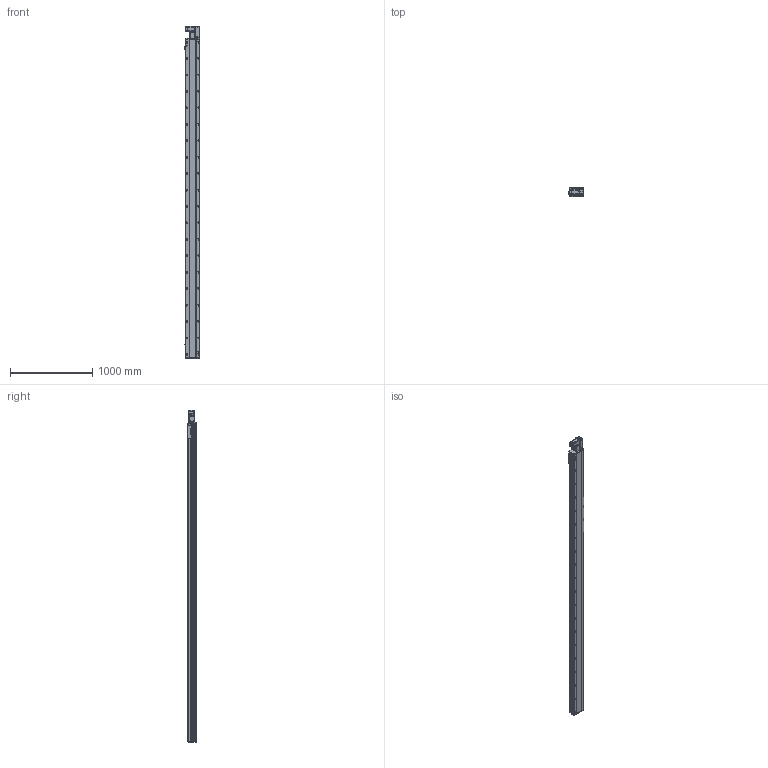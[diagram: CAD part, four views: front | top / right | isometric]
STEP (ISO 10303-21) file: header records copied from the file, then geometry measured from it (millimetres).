
FILE_DESCRIPTION (( 'STEP AP214' ), '1' );
FILE_NAME ('RTB17S-XX-3600-R-M40-C4.STEP', '2025-12-11T08:02:23', ( '' ), ( '' ), 'SwSTEP 2.0', 'SolidWorks 2018', '' );
FILE_SCHEMA (( 'AUTOMOTIVE_DESIGN' ));
Length unit declared in the file: millimetre
Products named in the file (14): RTB17S-L-001耜醱啣^RTB17S-XX-XX-R-M40-C4; RTH13-BL-012覜茼え俋离^RTB17S-XX-XX-R-M40-C4; RTB14-L-008-M20--萇儂啣^RTB17S-R-々湍釱蚾饜-400W_RTB17S-XX-XX-R-M40-C4; RTB17S-L-014-T20--々湍釱^RTB17S-R-々湍釱蚾饜-400W_RTB17S-XX-XX-R-M40-C4; RTB17-R-011菁釱^RTB17S-XX-XX-R-M40-C4; RTB14-L-018P^RTB17S-R-々湍釱蚾饜-400W_RTB17S-XX-XX-R-M40-C4; RTB17S-L-004佪裝蹟譫蟀諉釱^RTB17S-XX-XX-R-M40-C4; RTB14-L-005P--轴承塑胶压盖^RTB17S-R-皮带座装配-400W_RTB17S-XX-XX-R-M40-C4; RTB17S-L-007奻裔^RTB17S-XX-XX-R-M40-C4; RTB17S-R-々湍釱蚾饜-400W^RTB17S-XX-XX-R-M40-C4; RTB17S-XX-3600-R-M40-C4; RTB14-L-017P^RTB17S-R-々湍釱蚾饜-400W_RTB17S-XX-XX-R-M40-C4; 400W侜督萇儂^RTB17S-XX-XX-R-M40-C4; OMRON EE-SX672 传感器^RTB17S-XX-XX-R-M40-C4
Assembly tree (16 placements, depth 3):
  RTB17S-XX-3600-R-M40-C4
    RTB17-R-011菁釱^RTB17S-XX-XX-R-M40-C4
    RTB17S-L-007奻裔^RTB17S-XX-XX-R-M40-C4
    OMRON EE-SX672 传感器^RTB17S-XX-XX-R-M40-C4  x3
    RTB17S-L-001耜醱啣^RTB17S-XX-XX-R-M40-C4
    400W侜督萇儂^RTB17S-XX-XX-R-M40-C4
    RTB17S-L-004佪裝蹟譫蟀諉釱^RTB17S-XX-XX-R-M40-C4
    RTH13-BL-012覜茼え俋离^RTB17S-XX-XX-R-M40-C4
    RTB17S-R-々湍釱蚾饜-400W^RTB17S-XX-XX-R-M40-C4
      RTB17S-L-014-T20--々湍釱^RTB17S-R-々湍釱蚾饜-400W_RTB17S-XX-XX-R-M40-C4
      RTB14-L-005P--轴承塑胶压盖^RTB17S-R-皮带座装配-400W_RTB17S-XX-XX-R-M40-C4
      RTB14-L-008-M20--萇儂啣^RTB17S-R-々湍釱蚾饜-400W_RTB17S-XX-XX-R-M40-C4
      RTB14-L-017P^RTB17S-R-々湍釱蚾饜-400W_RTB17S-XX-XX-R-M40-C4  x2
      RTB14-L-018P^RTB17S-R-々湍釱蚾饜-400W_RTB17S-XX-XX-R-M40-C4
Bounding box: 183.5 x 108 x 4041 mm (x, y, z)
Volume: 33579738.6 mm3; surface area: 3809323.1 mm2
Topology: 15 solids, 15 shells, 2413 faces, 6789 edges, 4437 vertices
Faces by surface type: plane 1094, cylinder 871, bspline 301, cone 139, torus 8
Entity records: 72617 total; most frequent: CARTESIAN_POINT 20794, ORIENTED_EDGE 10422, DIRECTION 9566, EDGE_CURVE 5211, VERTEX_POINT 3425, AXIS2_PLACEMENT_3D 3355, LINE 2856, VECTOR 2856
